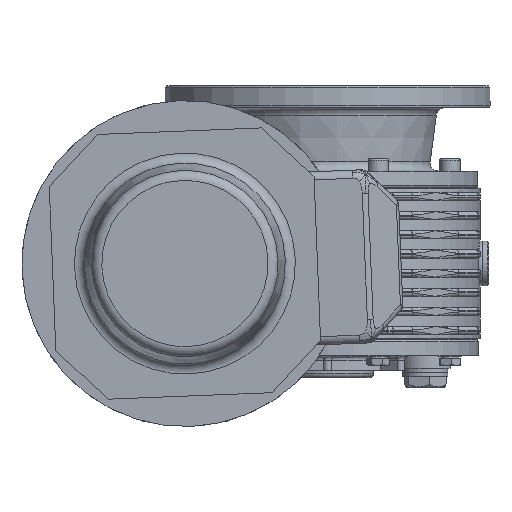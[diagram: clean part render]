
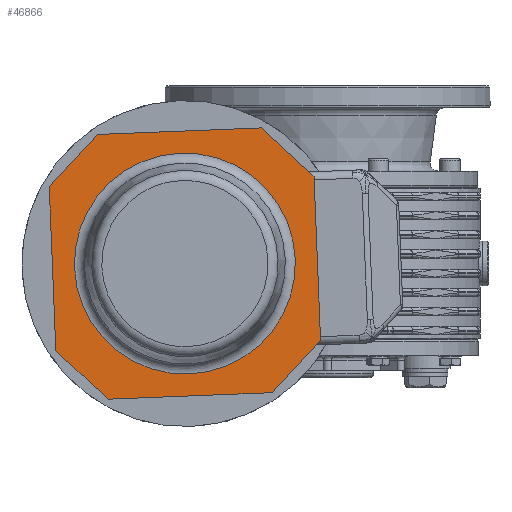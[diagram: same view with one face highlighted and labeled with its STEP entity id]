
A CAD part, left-side view. The second image highlights one B-rep face of the part: STEP entity #46866.
In plain terms, the highlighted planar face has unit normal (-1, 0, 0) as drawn and (1, 0, 0) by its records, which use the part's own axes.
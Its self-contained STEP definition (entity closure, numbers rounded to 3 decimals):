
#46760=CARTESIAN_POINT('',(209.0,0.,54.212));
#46761=VERTEX_POINT('',#46760);
#46762=CARTESIAN_POINT('',(209.0,0.0,0.0));
#46763=DIRECTION('',(1.0,0.0,0.0));
#46764=DIRECTION('',(0.0,0.0,-1.0));
#46765=AXIS2_PLACEMENT_3D('',#46762,#46763,#46764);
#46766=CIRCLE('',#46765,54.212);
#46767=EDGE_CURVE('',#46761,#46761,#46766,.T.);
#46792=CARTESIAN_POINT('',(209.0,28.6,0.0));
#46793=DIRECTION('',(1.0,0.0,0.0));
#46794=DIRECTION('',(0.0,0.0,-1.0));
#46795=AXIS2_PLACEMENT_3D('',#46792,#46793,#46794);
#46796=PLANE('',#46795);
#46797=CARTESIAN_POINT('',(209.0,-65.0,40.251));
#46798=VERTEX_POINT('',#46797);
#46799=CARTESIAN_POINT('',(209.0,-40.251,65.0));
#46800=VERTEX_POINT('',#46799);
#46801=CARTESIAN_POINT('',(209.0,-65.0,40.251));
#46802=DIRECTION('',(0.0,0.707,0.707));
#46803=VECTOR('',#46802,35.);
#46804=LINE('',#46801,#46803);
#46805=EDGE_CURVE('',#46798,#46800,#46804,.T.);
#46806=ORIENTED_EDGE('',*,*,#46805,.F.);
#46807=CARTESIAN_POINT('',(209.0,-65.0,-40.251));
#46808=VERTEX_POINT('',#46807);
#46809=CARTESIAN_POINT('',(209.0,-65.0,-40.251));
#46810=DIRECTION('',(0.0,0.0,1.0));
#46811=VECTOR('',#46810,80.503);
#46812=LINE('',#46809,#46811);
#46813=EDGE_CURVE('',#46808,#46798,#46812,.T.);
#46814=ORIENTED_EDGE('',*,*,#46813,.F.);
#46815=CARTESIAN_POINT('',(209.0,-40.251,-65.0));
#46816=VERTEX_POINT('',#46815);
#46817=CARTESIAN_POINT('',(209.0,-40.251,-65.0));
#46818=DIRECTION('',(0.0,-0.707,0.707));
#46819=VECTOR('',#46818,35.0);
#46820=LINE('',#46817,#46819);
#46821=EDGE_CURVE('',#46816,#46808,#46820,.T.);
#46822=ORIENTED_EDGE('',*,*,#46821,.F.);
#46823=CARTESIAN_POINT('',(209.0,40.251,-65.0));
#46824=VERTEX_POINT('',#46823);
#46825=CARTESIAN_POINT('',(209.0,40.251,-65.0));
#46826=DIRECTION('',(0.0,-1.0,0.0));
#46827=VECTOR('',#46826,80.503);
#46828=LINE('',#46825,#46827);
#46829=EDGE_CURVE('',#46824,#46816,#46828,.T.);
#46830=ORIENTED_EDGE('',*,*,#46829,.F.);
#46831=CARTESIAN_POINT('',(209.0,65.0,-40.251));
#46832=VERTEX_POINT('',#46831);
#46833=CARTESIAN_POINT('',(209.0,65.0,-40.251));
#46834=DIRECTION('',(0.0,-0.707,-0.707));
#46835=VECTOR('',#46834,35.0);
#46836=LINE('',#46833,#46835);
#46837=EDGE_CURVE('',#46832,#46824,#46836,.T.);
#46838=ORIENTED_EDGE('',*,*,#46837,.F.);
#46839=CARTESIAN_POINT('',(209.0,65.0,40.251));
#46840=VERTEX_POINT('',#46839);
#46841=CARTESIAN_POINT('',(209.0,65.0,40.251));
#46842=DIRECTION('',(0.0,0.0,-1.0));
#46843=VECTOR('',#46842,80.503);
#46844=LINE('',#46841,#46843);
#46845=EDGE_CURVE('',#46840,#46832,#46844,.T.);
#46846=ORIENTED_EDGE('',*,*,#46845,.F.);
#46847=CARTESIAN_POINT('',(209.0,40.251,65.0));
#46848=VERTEX_POINT('',#46847);
#46849=CARTESIAN_POINT('',(209.0,40.251,65.0));
#46850=DIRECTION('',(0.0,0.707,-0.707));
#46851=VECTOR('',#46850,35.0);
#46852=LINE('',#46849,#46851);
#46853=EDGE_CURVE('',#46848,#46840,#46852,.T.);
#46854=ORIENTED_EDGE('',*,*,#46853,.F.);
#46855=CARTESIAN_POINT('',(209.0,-40.251,65.0));
#46856=DIRECTION('',(0.0,1.0,0.0));
#46857=VECTOR('',#46856,80.503);
#46858=LINE('',#46855,#46857);
#46859=EDGE_CURVE('',#46800,#46848,#46858,.T.);
#46860=ORIENTED_EDGE('',*,*,#46859,.F.);
#46861=EDGE_LOOP('',(#46806,#46814,#46822,#46830,#46838,#46846,#46854,#46860));
#46862=FACE_OUTER_BOUND('',#46861,.T.);
#46863=ORIENTED_EDGE('',*,*,#46767,.F.);
#46864=EDGE_LOOP('',(#46863));
#46865=FACE_BOUND('',#46864,.T.);
#46866=ADVANCED_FACE('',(#46862,#46865),#46796,.T.);
